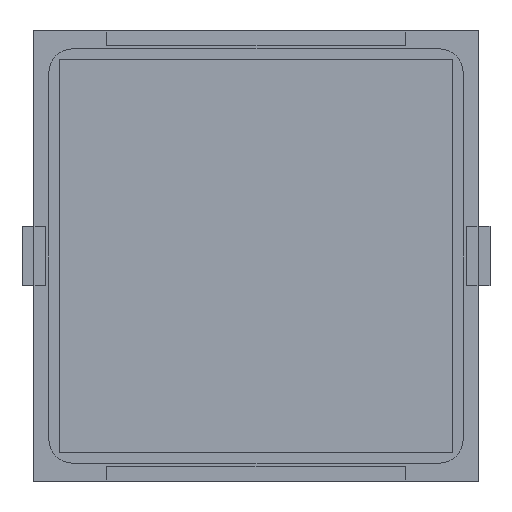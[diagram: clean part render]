
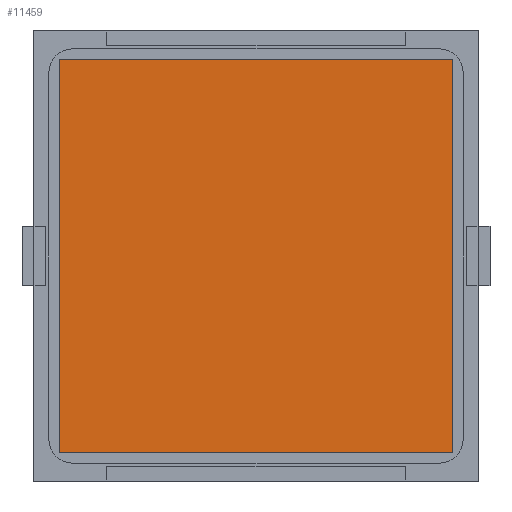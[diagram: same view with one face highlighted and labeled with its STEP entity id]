
A CAD part, front view. The second image highlights one B-rep face of the part: STEP entity #11459.
In plain terms, the highlighted planar face has unit normal (0, -1, 0).
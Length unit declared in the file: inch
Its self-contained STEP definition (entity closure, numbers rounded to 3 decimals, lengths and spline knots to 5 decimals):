
#78 = CARTESIAN_POINT ( 'NONE',  ( 0.64961, -0.005, -0.64961 ) ) ;
#1298 = VERTEX_POINT ( 'NONE', #7544 ) ;
#2274 = VERTEX_POINT ( 'NONE', #14362 ) ;
#2313 = FACE_OUTER_BOUND ( 'NONE', #3977, .T. ) ;
#2877 = DIRECTION ( 'NONE',  ( 1., 0., 0. ) ) ;
#3360 = CARTESIAN_POINT ( 'NONE',  ( -0.64961, -0.005, -0.64961 ) ) ;
#3501 = LINE ( 'NONE', #10815, #12687 ) ;
#3607 = VERTEX_POINT ( 'NONE', #3360 ) ;
#3649 = AXIS2_PLACEMENT_3D ( 'NONE', #6036, #9910, #4645 ) ;
#3977 = EDGE_LOOP ( 'NONE', ( #6026, #7053, #12516, #14860 ) ) ;
#4645 = DIRECTION ( 'NONE',  ( 0., 0., 1. ) ) ;
#5106 = CARTESIAN_POINT ( 'NONE',  ( 0.64961, -0.005, -0.64961 ) ) ;
#5187 = LINE ( 'NONE', #5106, #7334 ) ;
#5470 = VERTEX_POINT ( 'NONE', #12163 ) ;
#5573 = EDGE_CURVE ( 'NONE', #1298, #3607, #3501, .T. ) ;
#5831 = CARTESIAN_POINT ( 'NONE',  ( 0.64961, -0.005, 0.64961 ) ) ;
#6026 = ORIENTED_EDGE ( 'NONE', *, *, #6171, .T. ) ;
#6036 = CARTESIAN_POINT ( 'NONE',  ( 0.64961, -0.005, 0.64961 ) ) ;
#6171 = EDGE_CURVE ( 'NONE', #2274, #5470, #6291, .T. ) ;
#6291 = LINE ( 'NONE', #78, #16172 ) ;
#7022 = DIRECTION ( 'NONE',  ( 0., 0., -1. ) ) ;
#7053 = ORIENTED_EDGE ( 'NONE', *, *, #12518, .T. ) ;
#7334 = VECTOR ( 'NONE', #2877, 39.37008 ) ;
#7544 = CARTESIAN_POINT ( 'NONE',  ( -0.64961, -0.005, 0.64961 ) ) ;
#9235 = DIRECTION ( 'NONE',  ( -1., 0., 0. ) ) ;
#9910 = DIRECTION ( 'NONE',  ( 0., -1., 0. ) ) ;
#10701 = VECTOR ( 'NONE', #9235, 39.37008 ) ;
#10815 = CARTESIAN_POINT ( 'NONE',  ( -0.64961, -0.005, -0.64961 ) ) ;
#11459 = ADVANCED_FACE ( 'NONE', ( #2313 ), #15963, .T. ) ;
#12163 = CARTESIAN_POINT ( 'NONE',  ( 0.64961, -0.005, 0.64961 ) ) ;
#12516 = ORIENTED_EDGE ( 'NONE', *, *, #5573, .T. ) ;
#12518 = EDGE_CURVE ( 'NONE', #5470, #1298, #14577, .T. ) ;
#12687 = VECTOR ( 'NONE', #7022, 39.37008 ) ;
#14362 = CARTESIAN_POINT ( 'NONE',  ( 0.64961, -0.005, -0.64961 ) ) ;
#14577 = LINE ( 'NONE', #5831, #10701 ) ;
#14860 = ORIENTED_EDGE ( 'NONE', *, *, #14875, .T. ) ;
#14875 = EDGE_CURVE ( 'NONE', #3607, #2274, #5187, .T. ) ;
#15963 = PLANE ( 'NONE',  #3649 ) ;
#16172 = VECTOR ( 'NONE', #16336, 39.37008 ) ;
#16336 = DIRECTION ( 'NONE',  ( 0., 0., 1. ) ) ;
